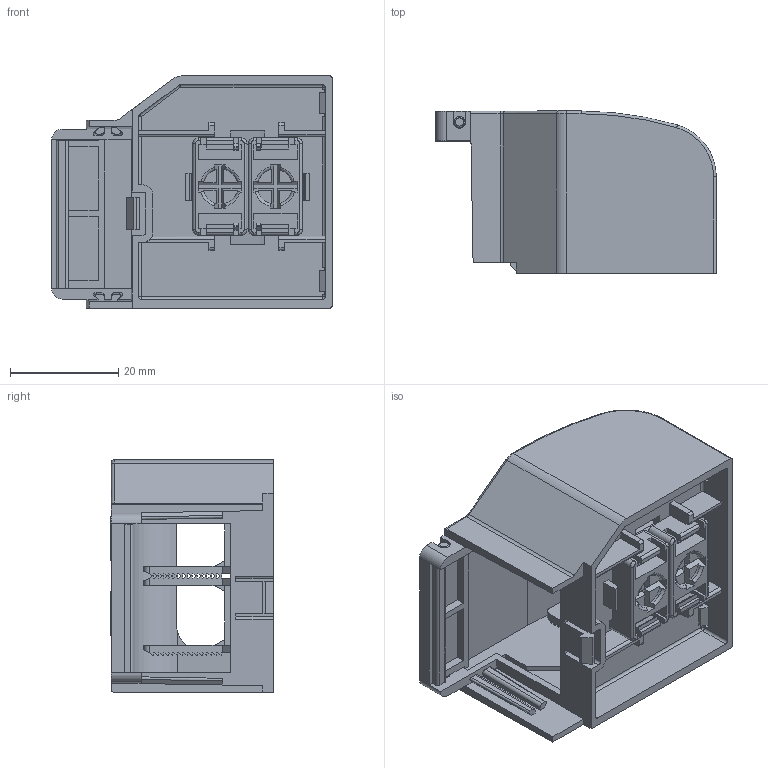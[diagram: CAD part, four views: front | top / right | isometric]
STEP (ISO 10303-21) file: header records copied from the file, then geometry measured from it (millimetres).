
FILE_DESCRIPTION((''),'2;1');
FILE_NAME('ASM0006_ASM','2021-01-26T',('tao.su'),(''),'PRO/ENGINEER BY PARAMETRIC TECHNOLOGY CORPORATION, 2010280','PRO/ENGINEER BY PARAMETRIC TECHNOLOGY CORPORATION, 2010280','');
FILE_SCHEMA(('CONFIG_CONTROL_DESIGN'));
Length unit declared in the file: millimetre
Products named in the file (4): CEGAI-01_55_10_21_3; CEGAI-22_17_4_12_2; YAXIANBAN_5_2_1_1; ASM0006_ASM
Assembly tree (4 placements, depth 2):
  ASM0006_ASM
    CEGAI-01_55_10_21_3
    CEGAI-22_17_4_12_2
    YAXIANBAN_5_2_1_1  x2
Bounding box: 51.9 x 30.15 x 43 mm (x, y, z)
Volume: 14797.3 mm3; surface area: 21851.3 mm2
Topology: 4 solids, 4 shells, 992 faces, 2880 edges, 1889 vertices
Faces by surface type: plane 747, cylinder 202, torus 28, bspline 9, sphere 6
Entity records: 27755 total; most frequent: CARTESIAN_POINT 5281, ORIENTED_EDGE 4872, DIRECTION 4403, EDGE_CURVE 2436, VECTOR 2051, LINE 2051, VERTEX_POINT 1601, AXIS2_PLACEMENT_3D 1176
